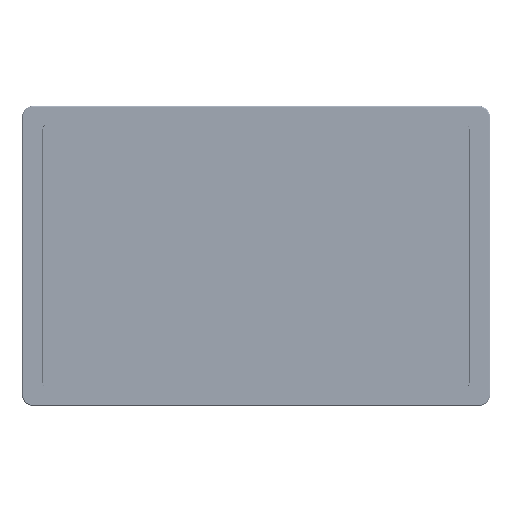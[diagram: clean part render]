
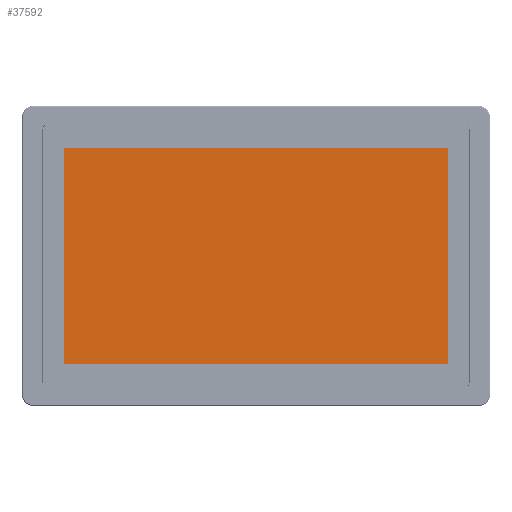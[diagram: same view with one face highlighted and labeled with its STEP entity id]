
A CAD part, top view. The second image highlights one B-rep face of the part: STEP entity #37592.
In plain terms, the highlighted planar face has unit normal (0, 0, 1).
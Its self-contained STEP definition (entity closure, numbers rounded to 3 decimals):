
#5757=PLANE('',#270613);
#37592=ADVANCED_FACE('',(#53834),#5757,.T.);
#53834=FACE_OUTER_BOUND('',#69803,.T.);
#69803=EDGE_LOOP('',(#117561,#117562,#117563,#117564));
#117561=ORIENTED_EDGE('',*,*,#204345,.T.);
#117562=ORIENTED_EDGE('',*,*,#204355,.T.);
#117563=ORIENTED_EDGE('',*,*,#204352,.T.);
#117564=ORIENTED_EDGE('',*,*,#204349,.T.);
#174902=VERTEX_POINT('',#501498);
#174903=VERTEX_POINT('',#501499);
#174906=VERTEX_POINT('',#501507);
#174908=VERTEX_POINT('',#501513);
#204345=EDGE_CURVE('',#174902,#174903,#232187,.T.);
#204349=EDGE_CURVE('',#174906,#174902,#232191,.T.);
#204352=EDGE_CURVE('',#174908,#174906,#232194,.T.);
#204355=EDGE_CURVE('',#174903,#174908,#232197,.T.);
#232187=LINE('',#501497,#248996);
#232191=LINE('',#501506,#249000);
#232194=LINE('',#501512,#249003);
#232197=LINE('',#501518,#249006);
#248996=VECTOR('',#305609,1.);
#249000=VECTOR('',#305615,1.);
#249003=VECTOR('',#305620,1.);
#249006=VECTOR('',#305625,1.);
#270613=AXIS2_PLACEMENT_3D('',#501522,#305631,#305632);
#305609=DIRECTION('',(0.,-1.,0.));
#305615=DIRECTION('',(-1.,0.,0.));
#305620=DIRECTION('',(0.,1.,0.));
#305625=DIRECTION('',(1.,0.,0.));
#305631=DIRECTION('',(0.,0.,1.));
#305632=DIRECTION('',(1.,0.,0.));
#501497=CARTESIAN_POINT('',(-110.,84.377,13.25));
#501498=CARTESIAN_POINT('',(-110.,84.377,13.25));
#501499=CARTESIAN_POINT('',(-110.,-108.823,13.25));
#501506=CARTESIAN_POINT('',(-110.,84.377,13.25));
#501507=CARTESIAN_POINT('',(234.,84.377,13.25));
#501512=CARTESIAN_POINT('',(234.,84.377,13.25));
#501513=CARTESIAN_POINT('',(234.,-108.823,13.25));
#501518=CARTESIAN_POINT('',(-110.,-108.823,13.25));
#501522=CARTESIAN_POINT('',(62.,-12.223,13.25));
